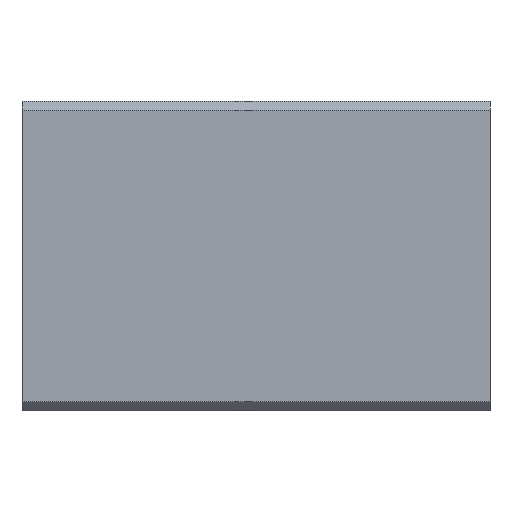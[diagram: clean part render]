
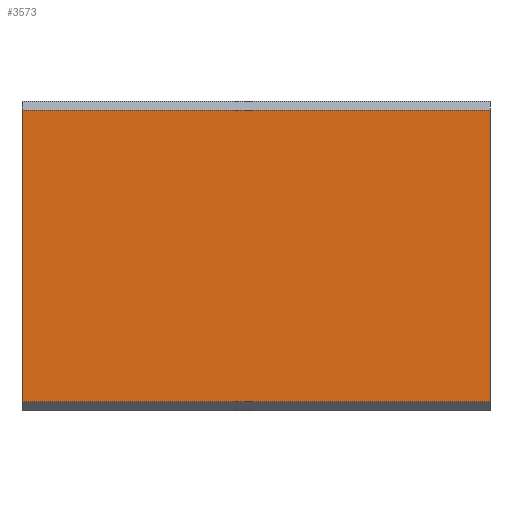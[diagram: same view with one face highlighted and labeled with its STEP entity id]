
A CAD part, front view. The second image highlights one B-rep face of the part: STEP entity #3573.
In plain terms, the highlighted planar face has unit normal (0, -1, 0).
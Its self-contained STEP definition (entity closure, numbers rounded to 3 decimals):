
#405 = VECTOR ( 'NONE', #5715, 1000. ) ;
#707 = CARTESIAN_POINT ( 'NONE',  ( 0., -17.5, 16.5 ) ) ;
#978 = DIRECTION ( 'NONE',  ( 0., 0., -1. ) ) ;
#1226 = DIRECTION ( 'NONE',  ( 0., 0., -1. ) ) ;
#2428 = PLANE ( 'NONE',  #2787 ) ;
#2651 = VECTOR ( 'NONE', #13626, 1000. ) ;
#2787 = AXIS2_PLACEMENT_3D ( 'NONE', #3628, #11396, #4726 ) ;
#2865 = FACE_OUTER_BOUND ( 'NONE', #9087, .T. ) ;
#3388 = LINE ( 'NONE', #6804, #405 ) ;
#3573 = ADVANCED_FACE ( 'NONE', ( #2865 ), #2428, .F. ) ;
#3628 = CARTESIAN_POINT ( 'NONE',  ( 53., -17.5, 17.5 ) ) ;
#3877 = EDGE_CURVE ( 'NONE', #12295, #11340, #8572, .T. ) ;
#4312 = VECTOR ( 'NONE', #978, 1000. ) ;
#4726 = DIRECTION ( 'NONE',  ( 0., 0., 1. ) ) ;
#4788 = EDGE_CURVE ( 'NONE', #13902, #11340, #6956, .T. ) ;
#5519 = CARTESIAN_POINT ( 'NONE',  ( 53., -17.5, -16.5 ) ) ;
#5536 = LINE ( 'NONE', #7894, #8146 ) ;
#5578 = CARTESIAN_POINT ( 'NONE',  ( 53., -17.5, 16.5 ) ) ;
#5715 = DIRECTION ( 'NONE',  ( -1., 0., 0. ) ) ;
#6493 = EDGE_CURVE ( 'NONE', #13902, #10759, #3388, .T. ) ;
#6804 = CARTESIAN_POINT ( 'NONE',  ( 53., -17.5, 16.5 ) ) ;
#6956 = LINE ( 'NONE', #14319, #4312 ) ;
#7894 = CARTESIAN_POINT ( 'NONE',  ( 0., -17.5, 17.5 ) ) ;
#8146 = VECTOR ( 'NONE', #1226, 1000. ) ;
#8572 = LINE ( 'NONE', #12517, #2651 ) ;
#8975 = ORIENTED_EDGE ( 'NONE', *, *, #4788, .F. ) ;
#9087 = EDGE_LOOP ( 'NONE', ( #9911, #11314, #8975, #11502 ) ) ;
#9911 = ORIENTED_EDGE ( 'NONE', *, *, #11868, .T. ) ;
#10759 = VERTEX_POINT ( 'NONE', #707 ) ;
#10836 = CARTESIAN_POINT ( 'NONE',  ( 0., -17.5, -16.5 ) ) ;
#11314 = ORIENTED_EDGE ( 'NONE', *, *, #3877, .T. ) ;
#11340 = VERTEX_POINT ( 'NONE', #5519 ) ;
#11396 = DIRECTION ( 'NONE',  ( 0., 1., 0. ) ) ;
#11502 = ORIENTED_EDGE ( 'NONE', *, *, #6493, .T. ) ;
#11868 = EDGE_CURVE ( 'NONE', #10759, #12295, #5536, .T. ) ;
#12295 = VERTEX_POINT ( 'NONE', #10836 ) ;
#12517 = CARTESIAN_POINT ( 'NONE',  ( 53., -17.5, -16.5 ) ) ;
#13626 = DIRECTION ( 'NONE',  ( 1., 0., 0. ) ) ;
#13902 = VERTEX_POINT ( 'NONE', #5578 ) ;
#14319 = CARTESIAN_POINT ( 'NONE',  ( 53., -17.5, 17.5 ) ) ;
